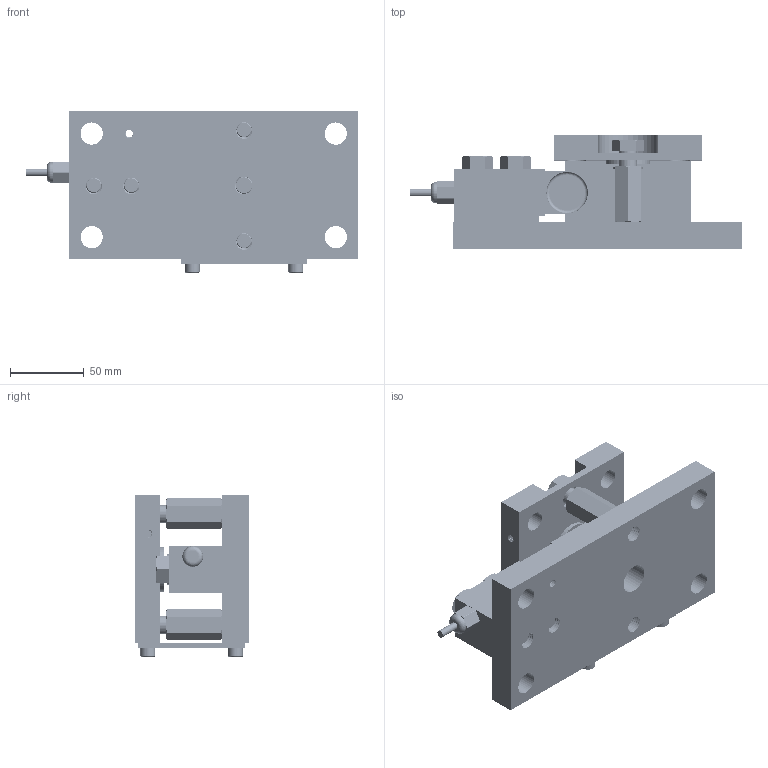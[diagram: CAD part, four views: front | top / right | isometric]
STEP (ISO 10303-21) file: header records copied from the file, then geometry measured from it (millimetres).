
FILE_DESCRIPTION(/* description */ (''),/* implementation_level */ '2;1');
FILE_NAME(/* name */ 'C:/Users/fardi/Dropbox/Work/Anyload/Load Cell Models/Product Catalog 3D/Weight Modules/563/563YHM4/563YHM4-(100-2000)kg v3.step',/* time_stamp */ '2020-05-13T09:38:34-07:00',/* author */ (''),/* organization */ (''),/* preprocessor_version */ 'ST-DEVELOPER v18.1',/* originating_system */ 'Autodesk Translation Framework v9.3.0.1241',/* authorisation */ '');
FILE_SCHEMA (('AUTOMOTIVE_DESIGN { 1 0 10303 214 3 1 1 }'));
Products named in the file (13): 563YHM4-(100-2000)kg; Base; 563YH-(0.1-SE5)Klb; Set Screw; Pin; Hat; Adapter; Top; Lock Plate; 91310A728; 91076A202; 99602A725; 91290A316
Assembly tree (18 placements, depth 2):
  563YHM4-(100-2000)kg
    Base
    563YH-(0.1-SE5)Klb
    Set Screw
    Pin
    Hat
    Adapter
    Top
    Lock Plate
    91310A728  x2
    91076A202  x2
    99602A725  x2
    91290A316  x4
Bounding box: 224.4 x 76.7 x 109 mm (x, y, z)
Volume: 647211.1 mm3; surface area: 160854.2 mm2
Topology: 18 solids, 18 shells, 1602 faces, 4318 edges, 2837 vertices
Faces by surface type: cylinder 619, plane 445, bspline 421, cone 110, torus 5, sphere 2
Full cylindrical faces by diameter (mm): 4.701 x32, 5.035 x28, 5.1 x1, 6 x36, 6.147 x17, 8 x4, 9 x2, 9.727 x32, 10 x4, 10.162 x10, 10.274 x36, 10.376 x16, 11.189 x9, 11.427 x11, 12 x107, 12.226 x40, 12.598 x9, 12.7 x23, 13.5 x10, 14 x1, 15 x4, 16 x2, 17 x1, 20 x1, 20.5 x2, 20.6 x2, 26 x1, 30 x1
Entity records: 85980 total; most frequent: CARTESIAN_POINT 57814, ORIENTED_EDGE 6898, DIRECTION 3837, EDGE_CURVE 3449, VERTEX_POINT 2281, LINE 1561, VECTOR 1561, B_SPLINE_CURVE_WITH_KNOTS 1534
